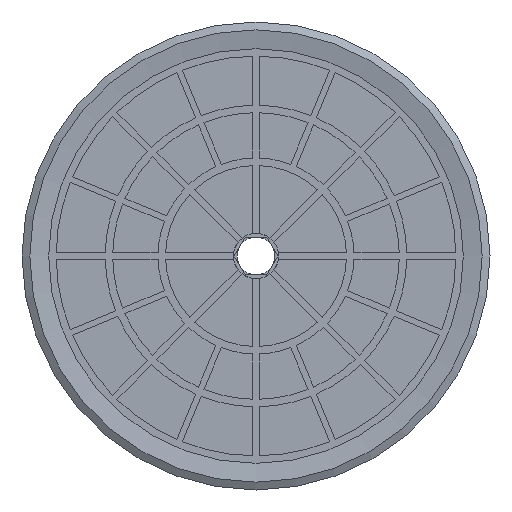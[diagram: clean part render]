
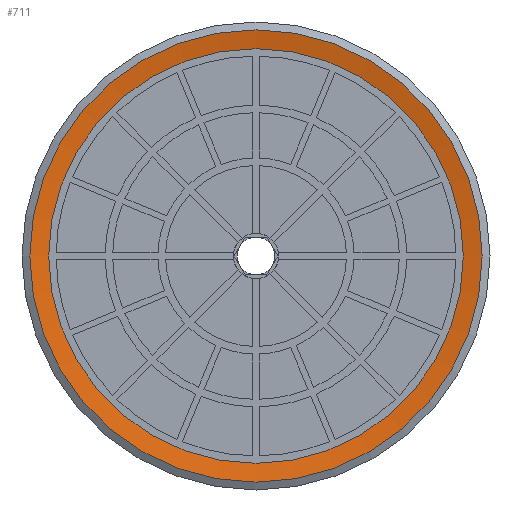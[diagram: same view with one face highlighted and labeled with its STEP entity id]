
A CAD part, front view. The second image highlights one B-rep face of the part: STEP entity #711.
In plain terms, the highlighted conical face has half-angle 80 degrees and reference radius 15 mm.
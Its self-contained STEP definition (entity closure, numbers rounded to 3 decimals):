
#711=ADVANCED_FACE('',(#1334,#1335),#1336,.F.);
#1334=FACE_BOUND('',#2214,.T.);
#1335=FACE_OUTER_BOUND('',#2215,.T.);
#1336=CONICAL_SURFACE('',#2216,15.0,1.396);
#2214=EDGE_LOOP('',(#4268));
#2215=EDGE_LOOP('',(#4269));
#2216=AXIS2_PLACEMENT_3D('',#4270,#4271,#4272);
#4268=ORIENTED_EDGE('',*,*,#6194,.T.);
#4269=ORIENTED_EDGE('',*,*,#6195,.F.);
#4270=CARTESIAN_POINT('',(0.0,0.,0.));
#4271=DIRECTION('',(0.0,0.,-1.0));
#4272=DIRECTION('',(0.0,1.0,0.));
#6194=EDGE_CURVE('',#7407,#7407,#7408,.T.);
#6195=EDGE_CURVE('',#7409,#7409,#7410,.T.);
#7407=VERTEX_POINT('',#9459);
#7408=CIRCLE('',#9460,13.75);
#7409=VERTEX_POINT('',#9461);
#7410=CIRCLE('',#9462,15.0);
#9459=CARTESIAN_POINT('',(0.0,-13.75,0.22));
#9460=AXIS2_PLACEMENT_3D('',#11219,#11220,#11221);
#9461=CARTESIAN_POINT('',(0.0,-15.0,0.));
#9462=AXIS2_PLACEMENT_3D('',#11222,#11223,#11224);
#11219=CARTESIAN_POINT('',(0.0,0.,0.22));
#11220=DIRECTION('',(0.0,0.,1.0));
#11221=DIRECTION('',(0.0,-1.0,0.));
#11222=CARTESIAN_POINT('',(0.0,0.,0.));
#11223=DIRECTION('',(0.0,0.,1.0));
#11224=DIRECTION('',(0.0,-1.0,0.));
